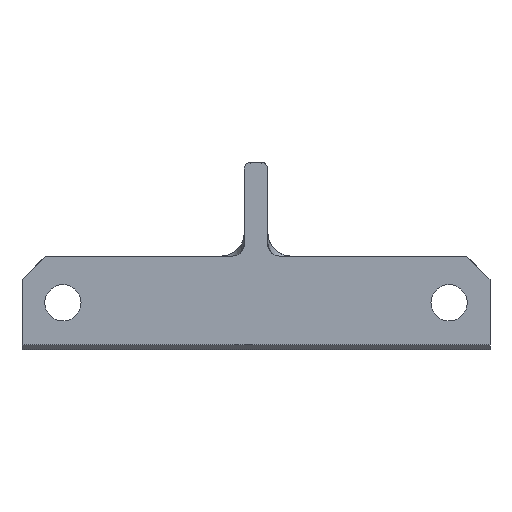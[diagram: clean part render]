
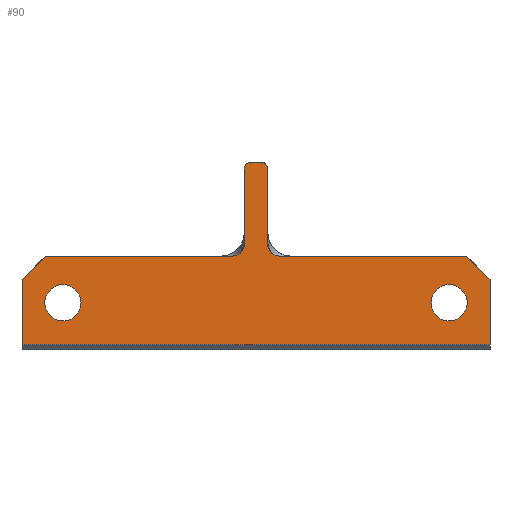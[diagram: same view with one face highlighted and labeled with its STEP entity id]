
A CAD part, front view. The second image highlights one B-rep face of the part: STEP entity #90.
In plain terms, the highlighted planar face has unit normal (0, -1, 0).
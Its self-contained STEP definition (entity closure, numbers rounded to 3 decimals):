
#90=ADVANCED_FACE('',(#489,#491,#493),#495,.T.);
#489=FACE_BOUND('',#490,.T.);
#490=EDGE_LOOP('',(#1590,#1591,#1592,#1593,#1594,#1595,#1596,#1597,#1598,#1599,#1600,
#1601,#1602,#1603));
#491=FACE_BOUND('',#492,.T.);
#492=EDGE_LOOP('',(#1604));
#493=FACE_BOUND('',#494,.T.);
#494=EDGE_LOOP('',(#1605));
#495=PLANE('',#496);
#496=AXIS2_PLACEMENT_3D('',#497,#498,#499);
#497=CARTESIAN_POINT('',(-20.,-24.7,7.));
#498=DIRECTION('',(0.,-1.,0.));
#499=DIRECTION('',(1.,0.,0.));
#1590=ORIENTED_EDGE('',*,*,#2270,.F.);
#1591=ORIENTED_EDGE('',*,*,#2275,.F.);
#1592=ORIENTED_EDGE('',*,*,#2279,.F.);
#1593=ORIENTED_EDGE('',*,*,#2280,.F.);
#1594=ORIENTED_EDGE('',*,*,#2252,.F.);
#1595=ORIENTED_EDGE('',*,*,#2281,.T.);
#1596=ORIENTED_EDGE('',*,*,#2256,.F.);
#1597=ORIENTED_EDGE('',*,*,#2264,.T.);
#1598=ORIENTED_EDGE('',*,*,#2282,.F.);
#1599=ORIENTED_EDGE('',*,*,#2283,.F.);
#1600=ORIENTED_EDGE('',*,*,#2284,.F.);
#1601=ORIENTED_EDGE('',*,*,#2285,.F.);
#1602=ORIENTED_EDGE('',*,*,#2266,.F.);
#1603=ORIENTED_EDGE('',*,*,#2196,.T.);
#1604=ORIENTED_EDGE('',*,*,#2286,.T.);
#1605=ORIENTED_EDGE('',*,*,#2287,.T.);
#2196=EDGE_CURVE('',#2616,#2614,#2617,.T.);
#2252=EDGE_CURVE('',#2711,#2713,#2714,.T.);
#2256=EDGE_CURVE('',#2719,#2721,#2722,.T.);
#2264=EDGE_CURVE('',#2719,#2734,#2736,.T.);
#2266=EDGE_CURVE('',#2616,#2739,#2740,.T.);
#2270=EDGE_CURVE('',#2744,#2614,#2746,.T.);
#2275=EDGE_CURVE('',#2753,#2744,#2755,.T.);
#2279=EDGE_CURVE('',#2761,#2753,#2762,.T.);
#2280=EDGE_CURVE('',#2713,#2761,#2763,.T.);
#2281=EDGE_CURVE('',#2711,#2721,#2764,.T.);
#2282=EDGE_CURVE('',#2765,#2734,#2766,.T.);
#2283=EDGE_CURVE('',#2767,#2765,#2768,.T.);
#2284=EDGE_CURVE('',#2769,#2767,#2770,.T.);
#2285=EDGE_CURVE('',#2739,#2769,#2771,.T.);
#2286=EDGE_CURVE('',#2772,#2772,#2773,.T.);
#2287=EDGE_CURVE('',#2774,#2774,#2775,.T.);
#2614=VERTEX_POINT('',#3443);
#2616=VERTEX_POINT('',#3447);
#2617=LINE('',#3448,#3449);
#2711=VERTEX_POINT('',#3679);
#2713=VERTEX_POINT('',#3683);
#2714=LINE('',#3684,#3685);
#2719=VERTEX_POINT('',#3777);
#2721=VERTEX_POINT('',#3781);
#2722=CIRCLE('',#3782,1.);
#2734=VERTEX_POINT('',#3865);
#2736=LINE('',#3869,#3870);
#2739=VERTEX_POINT('',#3958);
#2740=CIRCLE('',#3959,1.);
#2744=VERTEX_POINT('',#3970);
#2746=LINE('',#3974,#3975);
#2753=VERTEX_POINT('',#3989);
#2755=LINE('',#3993,#3994);
#2761=VERTEX_POINT('',#4008);
#2762=LINE('',#4009,#4010);
#2763=LINE('',#4012,#4013);
#2764=LINE('',#4015,#4016);
#2765=VERTEX_POINT('',#4018);
#2766=(BOUNDED_CURVE()B_SPLINE_CURVE(3,
(#4019,#4020,#4021,#4022),
.UNSPECIFIED.,.F.,.F.)B_SPLINE_CURVE_WITH_KNOTS((4,4),
(0.,1.),
.UNSPECIFIED.)CURVE()GEOMETRIC_REPRESENTATION_ITEM()RATIONAL_B_SPLINE_CURVE((1.,
0.805,0.805,1.))REPRESENTATION_ITEM(''));
#2767=VERTEX_POINT('',#4023);
#2768=LINE('',#4024,#4025);
#2769=VERTEX_POINT('',#4027);
#2770=(BOUNDED_CURVE()B_SPLINE_CURVE(3,
(#4028,#4029,#4030,#4031),
.UNSPECIFIED.,.F.,.F.)B_SPLINE_CURVE_WITH_KNOTS((4,4),
(0.,1.),
.UNSPECIFIED.)CURVE()GEOMETRIC_REPRESENTATION_ITEM()RATIONAL_B_SPLINE_CURVE((1.,
0.805,0.805,1.))REPRESENTATION_ITEM(''));
#2771=LINE('',#4032,#4033);
#2772=VERTEX_POINT('',#4035);
#2773=CIRCLE('',#4036,1.55);
#2774=VERTEX_POINT('',#4040);
#2775=CIRCLE('',#4041,1.55);
#3443=CARTESIAN_POINT('',(-18.,-24.7,8.));
#3447=CARTESIAN_POINT('',(-2.,-24.7,8.));
#3448=CARTESIAN_POINT('',(-2.,-24.7,8.));
#3449=VECTOR('',#3450,1.);
#3450=DIRECTION('',(-1.,0.,0.));
#3679=CARTESIAN_POINT('',(18.,-24.7,8.));
#3683=CARTESIAN_POINT('',(20.,-24.7,6.));
#3684=CARTESIAN_POINT('',(18.,-24.7,8.));
#3685=VECTOR('',#3686,1.);
#3686=DIRECTION('',(0.707,0.,-0.707));
#3777=CARTESIAN_POINT('',(1.,-24.7,9.));
#3781=CARTESIAN_POINT('',(2.,-24.7,8.));
#3782=AXIS2_PLACEMENT_3D('',#3783,#3784,#3785);
#3783=CARTESIAN_POINT('',(2.,-24.7,9.));
#3784=DIRECTION('',(0.,-1.,0.));
#3785=DIRECTION('',(-1.,0.,0.));
#3865=CARTESIAN_POINT('',(1.,-24.7,15.416));
#3869=CARTESIAN_POINT('',(1.,-24.7,9.));
#3870=VECTOR('',#3871,1.);
#3871=DIRECTION('',(0.,0.,1.));
#3958=CARTESIAN_POINT('',(-1.,-24.7,9.));
#3959=AXIS2_PLACEMENT_3D('',#3960,#3961,#3962);
#3960=CARTESIAN_POINT('',(-2.,-24.7,9.));
#3961=DIRECTION('',(0.,-1.,0.));
#3962=DIRECTION('',(0.,0.,-1.));
#3970=CARTESIAN_POINT('',(-20.,-24.7,6.));
#3974=CARTESIAN_POINT('',(-20.,-24.7,6.));
#3975=VECTOR('',#3976,1.);
#3976=DIRECTION('',(0.707,0.,0.707));
#3989=CARTESIAN_POINT('',(-20.,-24.7,0.4));
#3993=CARTESIAN_POINT('',(-20.,-24.7,0.4));
#3994=VECTOR('',#3995,1.);
#3995=DIRECTION('',(0.,0.,1.));
#4008=CARTESIAN_POINT('',(20.,-24.7,0.4));
#4009=CARTESIAN_POINT('',(20.,-24.7,0.4));
#4010=VECTOR('',#4011,1.);
#4011=DIRECTION('',(-1.,0.,0.));
#4012=CARTESIAN_POINT('',(20.,-24.7,6.));
#4013=VECTOR('',#4014,1.);
#4014=DIRECTION('',(0.,0.,-1.));
#4015=CARTESIAN_POINT('',(18.,-24.7,8.));
#4016=VECTOR('',#4017,1.);
#4017=DIRECTION('',(-1.,0.,0.));
#4018=CARTESIAN_POINT('',(0.5,-24.7,16.));
#4019=CARTESIAN_POINT('',(0.5,-24.7,16.));
#4020=CARTESIAN_POINT('',(0.793,-24.7,16.));
#4021=CARTESIAN_POINT('',(1.,-24.7,15.758));
#4022=CARTESIAN_POINT('',(1.,-24.7,15.416));
#4023=CARTESIAN_POINT('',(-0.5,-24.7,16.));
#4024=CARTESIAN_POINT('',(-0.5,-24.7,16.));
#4025=VECTOR('',#4026,1.);
#4026=DIRECTION('',(1.,0.,0.));
#4027=CARTESIAN_POINT('',(-1.,-24.7,15.416));
#4028=CARTESIAN_POINT('',(-1.,-24.7,15.416));
#4029=CARTESIAN_POINT('',(-1.,-24.7,15.758));
#4030=CARTESIAN_POINT('',(-0.793,-24.7,16.));
#4031=CARTESIAN_POINT('',(-0.5,-24.7,16.));
#4032=CARTESIAN_POINT('',(-1.,-24.7,9.));
#4033=VECTOR('',#4034,1.);
#4034=DIRECTION('',(0.,0.,1.));
#4035=CARTESIAN_POINT('',(18.05,-24.7,4.));
#4036=AXIS2_PLACEMENT_3D('',#4037,#4038,#4039);
#4037=CARTESIAN_POINT('',(16.5,-24.7,4.));
#4038=DIRECTION('',(0.,1.,0.));
#4039=DIRECTION('',(1.,0.,0.));
#4040=CARTESIAN_POINT('',(-14.95,-24.7,4.));
#4041=AXIS2_PLACEMENT_3D('',#4042,#4043,#4044);
#4042=CARTESIAN_POINT('',(-16.5,-24.7,4.));
#4043=DIRECTION('',(0.,1.,0.));
#4044=DIRECTION('',(1.,0.,0.));
